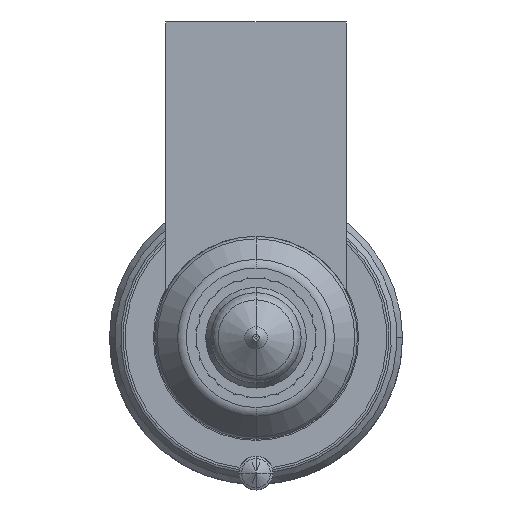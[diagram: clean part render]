
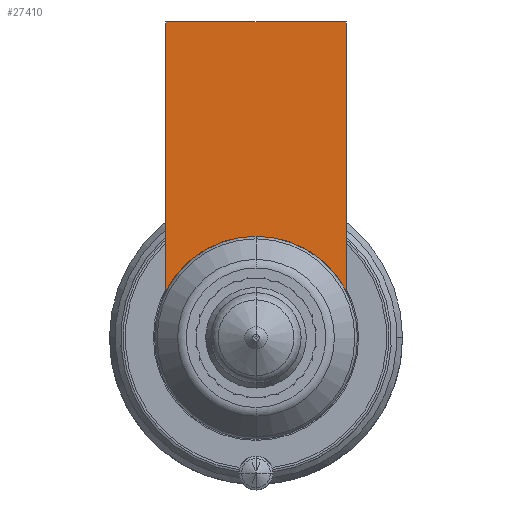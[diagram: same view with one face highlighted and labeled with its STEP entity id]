
A CAD part, front view. The second image highlights one B-rep face of the part: STEP entity #27410.
In plain terms, the highlighted planar face has unit normal (0, -1, 0).
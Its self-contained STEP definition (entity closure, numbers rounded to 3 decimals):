
#26601=DIRECTION('',(1.,0.,0.));
#26602=VECTOR('',#26601,16.);
#26603=CARTESIAN_POINT('',(-8.,-54.,28.));
#26604=LINE('',#26603,#26602);
#26609=CARTESIAN_POINT('',(0.,-54.,0.));
#26610=DIRECTION('',(0.,-1.,0.));
#26611=DIRECTION('',(0.889,0.,0.458));
#26612=AXIS2_PLACEMENT_3D('',#26609,#26610,#26611);
#26617=CARTESIAN_POINT('',(0.,-54.,0.));
#26618=DIRECTION('',(0.,-1.,0.));
#26619=DIRECTION('',(0.,0.,1.));
#26620=AXIS2_PLACEMENT_3D('',#26617,#26618,#26619);
#26646=DIRECTION('',(0.,0.,-1.));
#26647=VECTOR('',#26646,23.877);
#26648=CARTESIAN_POINT('',(-8.,-54.,28.));
#26649=LINE('',#26648,#26647);
#27262=DIRECTION('',(0.,0.,-1.));
#27263=VECTOR('',#27262,23.877);
#27264=CARTESIAN_POINT('',(8.,-54.,28.));
#27265=LINE('',#27264,#27263);
#27315=CARTESIAN_POINT('',(-8.,-54.,28.));
#27316=VERTEX_POINT('',#27315);
#27321=CARTESIAN_POINT('',(8.,-54.,28.));
#27322=VERTEX_POINT('',#27321);
#27325=CARTESIAN_POINT('',(-8.,-54.,4.123));
#27326=VERTEX_POINT('',#27325);
#27329=CARTESIAN_POINT('',(8.,-54.,4.123));
#27330=VERTEX_POINT('',#27329);
#27391=CARTESIAN_POINT('',(0.,-54.,9.));
#27392=VERTEX_POINT('',#27391);
#27393=CARTESIAN_POINT('',(0.,-54.,9.));
#27394=DIRECTION('',(0.,1.,0.));
#27395=DIRECTION('',(0.,0.,-1.));
#27396=AXIS2_PLACEMENT_3D('',#27393,#27394,#27395);
#27397=PLANE('',#27396);
#27399=ORIENTED_EDGE('',*,*,#27398,.F.);
#27401=ORIENTED_EDGE('',*,*,#27400,.T.);
#27403=ORIENTED_EDGE('',*,*,#27402,.T.);
#27405=ORIENTED_EDGE('',*,*,#27404,.T.);
#27407=ORIENTED_EDGE('',*,*,#27406,.T.);
#27408=EDGE_LOOP('',(#27399,#27401,#27403,#27405,#27407));
#27409=FACE_OUTER_BOUND('',#27408,.F.);
#27410=ADVANCED_FACE('',(#27409),#27397,.F.);
#26613=CIRCLE('',#26612,9.);
#26621=CIRCLE('',#26620,9.);
#27398=EDGE_CURVE('',#27316,#27326,#26649,.T.);
#27400=EDGE_CURVE('',#27316,#27322,#26604,.T.);
#27402=EDGE_CURVE('',#27322,#27330,#27265,.T.);
#27404=EDGE_CURVE('',#27330,#27392,#26613,.T.);
#27406=EDGE_CURVE('',#27392,#27326,#26621,.T.);
